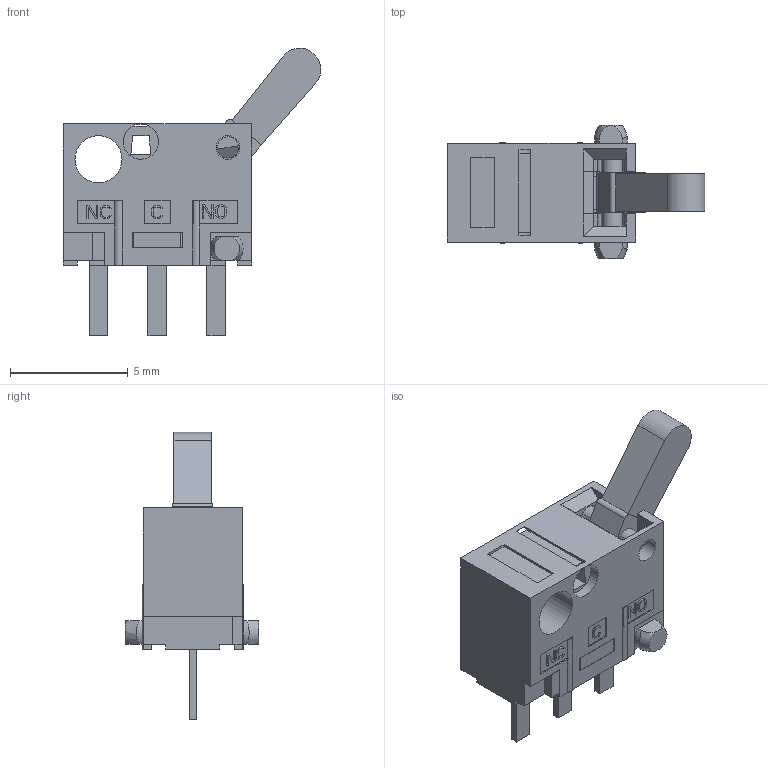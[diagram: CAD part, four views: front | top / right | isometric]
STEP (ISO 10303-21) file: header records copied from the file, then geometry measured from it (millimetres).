
FILE_DESCRIPTION((''),'2;1');
FILE_NAME('DTS-01-1_ASM','2021-01-07T',('Administrator'),(''),'PRO/ENGINEER BY PARAMETRIC TECHNOLOGY CORPORATION, 2010100','PRO/ENGINEER BY PARAMETRIC TECHNOLOGY CORPORATION, 2010100','');
FILE_SCHEMA(('CONFIG_CONTROL_DESIGN'));
Length unit declared in the file: millimetre
Products named in the file (8): 11-91201-O-; 15-91201-; 11-91204-; 11-61203-; 13-322D3-2-; 14-S15--; 12-91243-; DTS-01-1_ASM
Assembly tree (7 placements, depth 2):
  DTS-01-1_ASM
    11-91201-O-
    15-91201-
    11-91204-
    11-61203-
    13-322D3-2-
    14-S15--
    12-91243-
Bounding box: 10.94 x 5.67 x 12.22 mm (x, y, z)
Volume: 156.2 mm3; surface area: 618.7 mm2
Topology: 9 solids, 9 shells, 710 faces, 1944 edges, 1272 vertices
Faces by surface type: plane 596, bspline 60, cylinder 52, torus 2
Entity records: 27998 total; most frequent: CARTESIAN_POINT 10245, ORIENTED_EDGE 3888, DIRECTION 3236, EDGE_CURVE 1944, VECTOR 1642, LINE 1642, VERTEX_POINT 1272, AXIS2_PLACEMENT_3D 797
